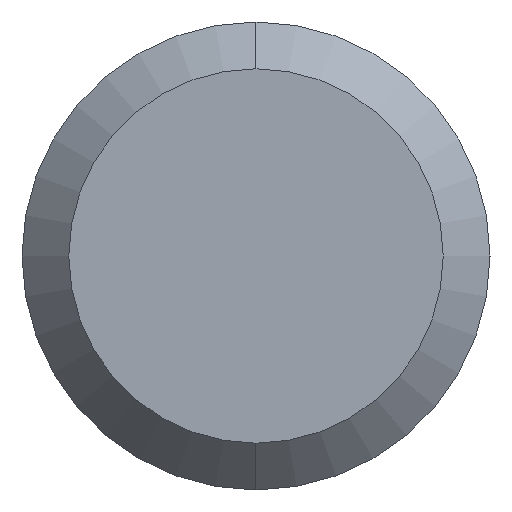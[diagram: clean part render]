
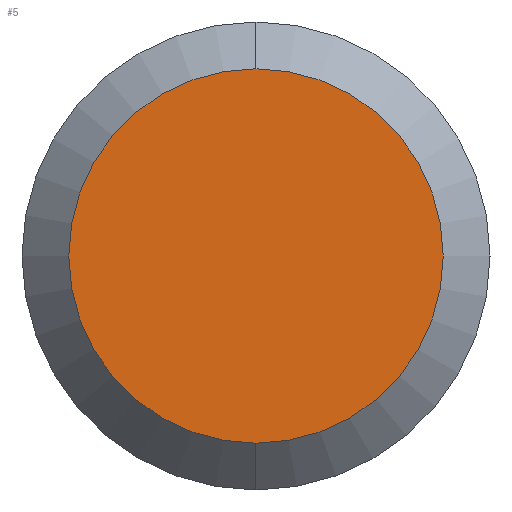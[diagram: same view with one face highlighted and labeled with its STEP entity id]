
A CAD part, left-side view. The second image highlights one B-rep face of the part: STEP entity #5.
In plain terms, the highlighted planar face has unit normal (-1, 0, 0).
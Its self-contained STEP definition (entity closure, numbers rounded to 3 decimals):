
#5 = ADVANCED_FACE ( 'NONE', ( #250 ), #455, .F. ) ;
#36 = DIRECTION ( 'NONE',  ( 0., 0., -1. ) ) ;
#47 = DIRECTION ( 'NONE',  ( -1., 0., 0. ) ) ;
#86 = DIRECTION ( 'NONE',  ( 0., 0., 1. ) ) ;
#97 = EDGE_CURVE ( 'NONE', #478, #239, #439, .T. ) ;
#167 = EDGE_CURVE ( 'NONE', #239, #478, #263, .T. ) ;
#191 = CARTESIAN_POINT ( 'NONE',  ( 0., 0., -1.6 ) ) ;
#207 = AXIS2_PLACEMENT_3D ( 'NONE', #305, #467, #482 ) ;
#239 = VERTEX_POINT ( 'NONE', #191 ) ;
#250 = FACE_OUTER_BOUND ( 'NONE', #363, .T. ) ;
#258 = CARTESIAN_POINT ( 'NONE',  ( 0., 0., 0. ) ) ;
#263 = CIRCLE ( 'NONE', #207, 1.6 ) ;
#288 = AXIS2_PLACEMENT_3D ( 'NONE', #258, #484, #36 ) ;
#298 = ORIENTED_EDGE ( 'NONE', *, *, #97, .T. ) ;
#305 = CARTESIAN_POINT ( 'NONE',  ( 0., 0., 0. ) ) ;
#319 = CARTESIAN_POINT ( 'NONE',  ( 0., 0., 1.6 ) ) ;
#339 = AXIS2_PLACEMENT_3D ( 'NONE', #376, #47, #86 ) ;
#355 = ORIENTED_EDGE ( 'NONE', *, *, #167, .T. ) ;
#363 = EDGE_LOOP ( 'NONE', ( #355, #298 ) ) ;
#376 = CARTESIAN_POINT ( 'NONE',  ( 0., 0., 0. ) ) ;
#439 = CIRCLE ( 'NONE', #339, 1.6 ) ;
#455 = PLANE ( 'NONE',  #288 ) ;
#467 = DIRECTION ( 'NONE',  ( -1., 0., 0. ) ) ;
#478 = VERTEX_POINT ( 'NONE', #319 ) ;
#482 = DIRECTION ( 'NONE',  ( 0., 0., 1. ) ) ;
#484 = DIRECTION ( 'NONE',  ( 1., 0., 0. ) ) ;
